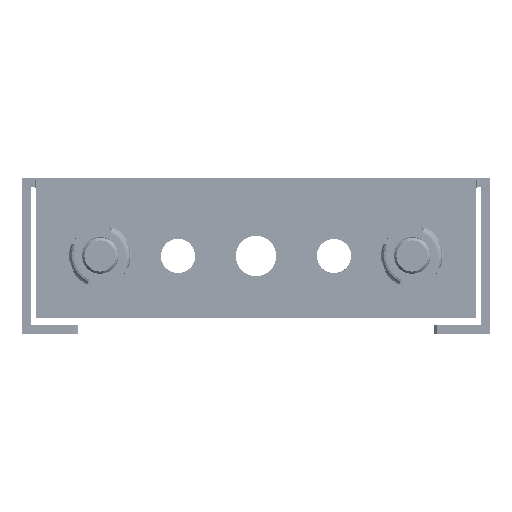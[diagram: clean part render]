
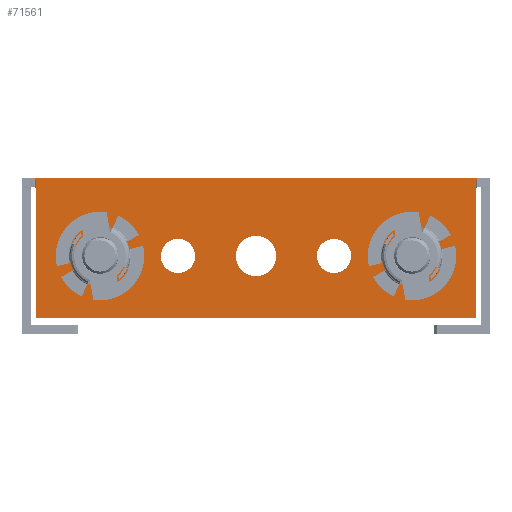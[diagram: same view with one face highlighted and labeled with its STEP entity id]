
A CAD part, left-side view. The second image highlights one B-rep face of the part: STEP entity #71561.
In plain terms, the highlighted planar face has unit normal (-1, 0, 0).
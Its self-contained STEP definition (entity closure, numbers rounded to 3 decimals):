
#34087 = VERTEX_POINT('',#34088);
#34088 = CARTESIAN_POINT('',(-649.,35.346,-0.));
#34095 = EDGE_CURVE('',#34096,#34087,#34098,.T.);
#34096 = VERTEX_POINT('',#34097);
#34097 = CARTESIAN_POINT('',(-649.,-35.346,
    0.));
#34098 = LINE('',#34099,#34100);
#34099 = CARTESIAN_POINT('',(-649.,0.,-0.));
#34100 = VECTOR('',#34101,1.);
#34101 = DIRECTION('',(-0.,1.,-0.));
#71362 = EDGE_CURVE('',#71363,#34096,#71365,.T.);
#71363 = VERTEX_POINT('',#71364);
#71364 = CARTESIAN_POINT('',(-649.,-35.293,-2.1));
#71365 = B_SPLINE_CURVE_WITH_KNOTS('',3,(#71366,#71367,#71368,#71369),
  .UNSPECIFIED.,.F.,.F.,(4,4),(0.002,0.004),
  .PIECEWISE_BEZIER_KNOTS.);
#71366 = CARTESIAN_POINT('',(-649.,-35.293,-2.1));
#71367 = CARTESIAN_POINT('',(-649.,-35.316,-1.4));
#71368 = CARTESIAN_POINT('',(-649.,-35.335,-0.7));
#71369 = CARTESIAN_POINT('',(-649.,-35.346,
    0.));
#71455 = EDGE_CURVE('',#71456,#34087,#71458,.T.);
#71456 = VERTEX_POINT('',#71457);
#71457 = CARTESIAN_POINT('',(-649.,35.293,-2.1));
#71458 = B_SPLINE_CURVE_WITH_KNOTS('',3,(#71459,#71460,#71461,#71462),
  .UNSPECIFIED.,.F.,.F.,(4,4),(0.002,0.004),
  .PIECEWISE_BEZIER_KNOTS.);
#71459 = CARTESIAN_POINT('',(-649.,35.293,-2.1));
#71460 = CARTESIAN_POINT('',(-649.,35.316,-1.4));
#71461 = CARTESIAN_POINT('',(-649.,35.335,-0.7));
#71462 = CARTESIAN_POINT('',(-649.,35.346,-0.));
#71537 = VERTEX_POINT('',#71538);
#71538 = CARTESIAN_POINT('',(-649.,-35.293,-22.5));
#71551 = EDGE_CURVE('',#71363,#71537,#71552,.T.);
#71552 = LINE('',#71553,#71554);
#71553 = CARTESIAN_POINT('',(-649.,-35.293,-1.5));
#71554 = VECTOR('',#71555,1.);
#71555 = DIRECTION('',(0.,0.,-1.));
#71561 = ADVANCED_FACE('',(#71562,#71573,#71584,#71595,#71606,#71617),
  #71637,.F.);
#71562 = FACE_BOUND('',#71563,.T.);
#71563 = EDGE_LOOP('',(#71564));
#71564 = ORIENTED_EDGE('',*,*,#71565,.F.);
#71565 = EDGE_CURVE('',#71566,#71566,#71568,.T.);
#71566 = VERTEX_POINT('',#71567);
#71567 = CARTESIAN_POINT('',(-649.,-12.5,-9.75));
#71568 = CIRCLE('',#71569,2.75);
#71569 = AXIS2_PLACEMENT_3D('',#71570,#71571,#71572);
#71570 = CARTESIAN_POINT('',(-649.,-12.5,-12.5));
#71571 = DIRECTION('',(-1.,0.,0.));
#71572 = DIRECTION('',(0.,0.,1.));
#71573 = FACE_BOUND('',#71574,.T.);
#71574 = EDGE_LOOP('',(#71575));
#71575 = ORIENTED_EDGE('',*,*,#71576,.F.);
#71576 = EDGE_CURVE('',#71577,#71577,#71579,.T.);
#71577 = VERTEX_POINT('',#71578);
#71578 = CARTESIAN_POINT('',(-649.,12.5,-15.25));
#71579 = CIRCLE('',#71580,2.75);
#71580 = AXIS2_PLACEMENT_3D('',#71581,#71582,#71583);
#71581 = CARTESIAN_POINT('',(-649.,12.5,-12.5));
#71582 = DIRECTION('',(-1.,0.,0.));
#71583 = DIRECTION('',(0.,0.,-1.));
#71584 = FACE_BOUND('',#71585,.T.);
#71585 = EDGE_LOOP('',(#71586));
#71586 = ORIENTED_EDGE('',*,*,#71587,.F.);
#71587 = EDGE_CURVE('',#71588,#71588,#71590,.T.);
#71588 = VERTEX_POINT('',#71589);
#71589 = CARTESIAN_POINT('',(-649.,25.,-15.75));
#71590 = CIRCLE('',#71591,3.25);
#71591 = AXIS2_PLACEMENT_3D('',#71592,#71593,#71594);
#71592 = CARTESIAN_POINT('',(-649.,25.,-12.5));
#71593 = DIRECTION('',(-1.,0.,0.));
#71594 = DIRECTION('',(0.,0.,-1.));
#71595 = FACE_BOUND('',#71596,.T.);
#71596 = EDGE_LOOP('',(#71597));
#71597 = ORIENTED_EDGE('',*,*,#71598,.F.);
#71598 = EDGE_CURVE('',#71599,#71599,#71601,.T.);
#71599 = VERTEX_POINT('',#71600);
#71600 = CARTESIAN_POINT('',(-649.,-25.,-9.25));
#71601 = CIRCLE('',#71602,3.25);
#71602 = AXIS2_PLACEMENT_3D('',#71603,#71604,#71605);
#71603 = CARTESIAN_POINT('',(-649.,-25.,-12.5));
#71604 = DIRECTION('',(-1.,0.,0.));
#71605 = DIRECTION('',(0.,0.,1.));
#71606 = FACE_BOUND('',#71607,.T.);
#71607 = EDGE_LOOP('',(#71608));
#71608 = ORIENTED_EDGE('',*,*,#71609,.F.);
#71609 = EDGE_CURVE('',#71610,#71610,#71612,.T.);
#71610 = VERTEX_POINT('',#71611);
#71611 = CARTESIAN_POINT('',(-649.,0.,-9.25));
#71612 = CIRCLE('',#71613,3.25);
#71613 = AXIS2_PLACEMENT_3D('',#71614,#71615,#71616);
#71614 = CARTESIAN_POINT('',(-649.,0.,-12.5));
#71615 = DIRECTION('',(-1.,0.,0.));
#71616 = DIRECTION('',(0.,0.,1.));
#71617 = FACE_BOUND('',#71618,.T.);
#71618 = EDGE_LOOP('',(#71619,#71620,#71621,#71622,#71623,#71631));
#71619 = ORIENTED_EDGE('',*,*,#71551,.F.);
#71620 = ORIENTED_EDGE('',*,*,#71362,.T.);
#71621 = ORIENTED_EDGE('',*,*,#34095,.T.);
#71622 = ORIENTED_EDGE('',*,*,#71455,.F.);
#71623 = ORIENTED_EDGE('',*,*,#71624,.T.);
#71624 = EDGE_CURVE('',#71456,#71625,#71627,.T.);
#71625 = VERTEX_POINT('',#71626);
#71626 = CARTESIAN_POINT('',(-649.,35.293,-22.5));
#71627 = LINE('',#71628,#71629);
#71628 = CARTESIAN_POINT('',(-649.,35.293,0.));
#71629 = VECTOR('',#71630,1.);
#71630 = DIRECTION('',(0.,0.,-1.));
#71631 = ORIENTED_EDGE('',*,*,#71632,.F.);
#71632 = EDGE_CURVE('',#71537,#71625,#71633,.T.);
#71633 = LINE('',#71634,#71635);
#71634 = CARTESIAN_POINT('',(-649.,-37.5,-22.5));
#71635 = VECTOR('',#71636,1.);
#71636 = DIRECTION('',(-0.,1.,-0.));
#71637 = PLANE('',#71638);
#71638 = AXIS2_PLACEMENT_3D('',#71639,#71640,#71641);
#71639 = CARTESIAN_POINT('',(-649.,0.,0.));
#71640 = DIRECTION('',(1.,0.,0.));
#71641 = DIRECTION('',(0.,0.,-1.));
